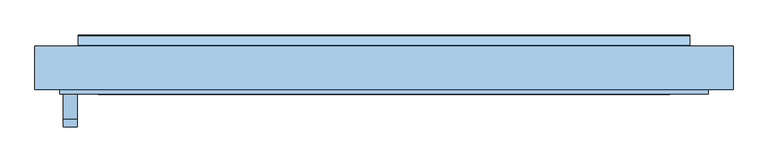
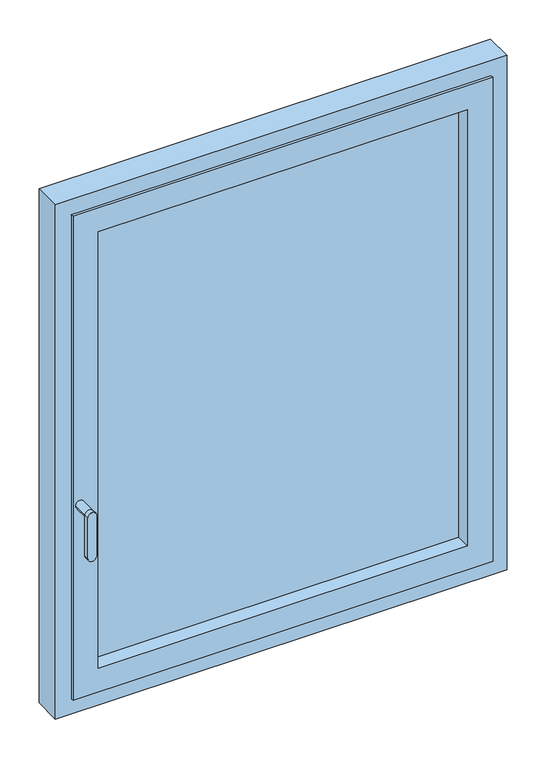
"""IFC4 building model written with IfcOpenShell, lengths in millimetres: window geometry, Jednokrilni prozor_FT-0201 HF+FT-0203 HF : Jednokrilni prozor_FT-0201 HF+FT-0203 HF-1230x1480mm."""

from ifc_helpers import new_model, si_unit, point, frame, frame_2d, origin, place, context, project, spatial, polyline, circle_curve, trimmed, segment, composite_curve, outline, extrude, faceted_brep, source, transform, mapped, element, save
from ifc_brep_helpers import plane_surface, cylinder_surface, advanced_brep


def window_342ed4de(model_context):
    return source(origin(), model_context, "Body", "SolidModel", [
        advanced_brep(
        [(-564.7, 0.0, 1410.7), (-540.7, 0.0, 1410.7), (-540.7, -43.5, 1410.7), (-564.7, -43.5, 1410.7), (-564.7, -58.0, 1410.7), (-564.7, -58.0, 1294.7), (-540.7, -58.0, 1294.7), (-540.7, -58.0, 1410.7), (-540.7, -43.5, 1294.7), (-564.7, -43.5, 1294.7)],
        [
            (0, 1, circle_curve(frame((-552.7, 0.0, 1410.7), z_axis=(0.0, 1.0, 0.0), x_axis=(1.0, 0.0, 0.0)), 12.0)),
            (1, 0, circle_curve(frame((-552.7, 0.0, 1410.7), z_axis=(0.0, 1.0, 0.0), x_axis=(1.0, 0.0, 0.0)), 12.0)),
            (1, 2),
            (2, 3, circle_curve(frame((-552.7, -43.5, 1410.7), z_axis=(0.0, 1.0, 0.0), x_axis=(1.0, 0.0, 0.0)), 12.0)),
            (3, 0),
            (3, 2, circle_curve(frame((-552.7, -43.5, 1410.7), z_axis=(0.0, 1.0, 0.0), x_axis=(1.0, 0.0, 0.0)), 12.0)),
            (4, 5),
            (5, 6, circle_curve(frame((-552.7, -58.0, 1294.7), z_axis=(0.0, -1.0, 0.0), x_axis=(1.0, 0.0, 0.0)), 12.0)),
            (6, 7),
            (7, 4, circle_curve(frame((-552.7, -58.0, 1410.7), z_axis=(0.0, -1.0, 0.0), x_axis=(1.0, 0.0, 0.0)), 12.0)),
            (2, 8),
            (8, 9, circle_curve(frame((-552.7, -43.5, 1294.7), z_axis=(0.0, 1.0, 0.0), x_axis=(1.0, 0.0, 0.0)), 12.0)),
            (9, 3),
            (4, 3),
            (9, 5),
            (8, 6),
            (2, 7),
        ],
        [
            plane_surface(frame((-540.7, 0.0, 1410.7), z_axis=(0.0, 1.0, 0.0), x_axis=(0.0, 0.0, -1.0))),
            cylinder_surface(frame((-552.7, 0.0, 1410.7), z_axis=(0.0, -1.0, 0.0), x_axis=(1.0, 0.0, 0.0)), 12.0),
            plane_surface(frame((-564.7, -58.0, 1410.7), z_axis=(0.0, -1.0, 0.0), x_axis=(0.0, 0.0, -1.0))),
            plane_surface(frame((-564.7, -43.5, 1410.7), z_axis=(0.0, 1.0, 0.0), x_axis=(0.0, 0.0, 1.0))),
            plane_surface(frame((-564.7, -58.0, 1410.7), z_axis=(-1.0, 0.0, 0.0), x_axis=(0.0, 1.0, 0.0))),
            cylinder_surface(frame((-552.7, -43.5, 1294.7), z_axis=(0.0, -1.0, 0.0), x_axis=(1.0, 0.0, 0.0)), 12.0),
            plane_surface(frame((-540.7, -58.0, 1294.7), z_axis=(1.0, 0.0, 0.0), x_axis=(0.0, 1.0, 0.0))),
            cylinder_surface(frame((-552.7, -43.5, 1410.7), z_axis=(0.0, -1.0, 0.0), x_axis=(1.0, 0.0, 0.0)), 12.0),
        ],
        [
            (0, [[1, 2]]),
            (1, [[-2, 3, 4, 5]]),
            (1, [[-1, -5, 6, -3]]),
            (2, [[7, 8, 9, 10]]),
            (3, [[11, 12, 13, -4]]),
            (4, [[-7, 14, -13, 15]]),
            (5, [[-8, -15, -12, 16]]),
            (6, [[-9, -16, -11, 17]]),
            (7, [[-10, -17, -6, -14]]),
        ],
    ),
        extrude(outline(polyline([(518.0001305, 41.6185338), (-518.0001305, 41.6185338), (-518.0001305, 69.6185338), (518.0001305, 69.6185338), (518.0001305, 41.6185338)])), frame((0.0, 0.0, 906.9998695), z_axis=(0.0, 0.0, 1.0), x_axis=(1.0, 0.0, 0.0)), (0.0, 0.0, 1.0), 1286.000261),
        faceted_brep([(571.5, 8.0000037, 2246.5), (571.5, 0.0, 2246.5), (571.5, 0.0, 853.5), (571.5, 8.0000037, 853.5), (-571.5, 0.0, 2246.5), (-571.5, 0.0, 853.5), (502.999872, 0.0, 922.000128), (-502.999872, 0.0, 922.000128), (-502.999872, 0.0, 2177.999872), (502.999872, 0.0, 2177.999872), (-571.5, 8.0000037, 853.5), (-571.5, 8.0000037, 2246.5), (553.8374799, 8.0000037, 2228.8374799), (-553.8374799, 8.0000037, 2228.8374799), (-553.8374799, 8.0000037, 871.1625201), (553.8374799, 8.0000037, 871.1625201), (554.5000951, 80.4965699, 2229.5000951), (554.5000951, 80.4965699, 870.4999049), (-554.5000951, 80.4965699, 870.4999049), (-554.5000951, 80.4965699, 2229.5000951), (538.5022896, 80.4965699, 2213.5022896), (-538.5022896, 80.4965699, 2213.5022896), (-538.5022896, 80.4965699, 886.4977104), (538.5022896, 80.4965699, 886.4977104), (538.5022896, 85.0, 2213.5022896), (538.5022896, 85.0, 886.4977104), (-538.5022896, 85.0, 886.4977104), (-538.5022896, 85.0, 2213.5022896), (530.05192, 85.0, 2205.05192), (-530.05192, 85.0, 2205.05192), (-530.05192, 85.0, 894.94808), (530.05192, 85.0, 894.94808), (526.0799884, 84.9128958, 898.9200116), (526.0799884, 84.9128958, 2201.0799884), (-526.0799884, 84.9128958, 898.9200116), (522.162591, 84.6124559, 902.837409), (522.162591, 84.6124559, 2197.162591), (-522.162591, 84.6124559, 902.837409), (519.6527826, 84.3851556, 905.3472174), (519.6527826, 84.3851556, 2194.6527826), (-519.6527826, 84.3851556, 905.3472174), (515.0927215, 83.6652065, 909.9072785), (515.0927215, 83.6652065, 2190.0927215), (-515.0927215, 83.6652065, 909.9072785), (510.772385, 82.6110634, 914.227615), (510.772385, 82.6110634, 2185.772385), (-510.772385, 82.6110634, 914.227615), (508.9191235, 81.9932101, 2183.9191235), (508.9191235, 81.9932101, 916.0808765), (-508.9191235, 81.9932101, 916.0808765), (507.5793408, 81.4515735, 2182.5793408), (507.5793408, 81.4515735, 917.4206592), (-507.5793408, 81.4515735, 917.4206592), (506.1201327, 80.7277945, 2181.1201327), (506.1201327, 80.7277945, 918.8798673), (-506.1201327, 80.7277945, 918.8798673), (504.9946194, 80.0124074, 2179.9946194), (504.9946194, 80.0124074, 920.0053806), (-504.9946194, 80.0124074, 920.0053806), (504.1282037, 79.2824712, 2179.1282037), (504.1282037, 79.2824712, 920.8717963), (-504.1282037, 79.2824712, 920.8717963), (503.1975707, 78.1677754, 2178.1975707), (503.1975707, 78.1677754, 921.8024293), (-503.1975707, 78.1677754, 921.8024293), (503.0046233, 77.0008291, 2178.0046233), (503.0046233, 77.0008291, 921.9953767), (-503.0046233, 77.0008291, 921.9953767), (503.0046233, 69.6185338, 2178.0046233), (503.0046233, 69.6185338, 921.9953767), (-503.0046233, 69.6185338, 921.9953767), (518.0001305, 69.6185338, 2193.0001305), (-518.0001305, 69.6185338, 2193.0001305), (-518.0001305, 69.6185338, 906.9998695), (518.0001305, 69.6185338, 906.9998695), (-503.0046233, 69.6185338, 2178.0046233), (518.0001305, 41.6185338, 2193.0001305), (518.0001305, 41.6185338, 906.9998695), (-518.0001305, 41.6185338, 906.9998695), (-518.0001305, 41.6185338, 2193.0001305), (502.999872, 41.6185338, 2177.999872), (-502.999872, 41.6185338, 2177.999872), (-502.999872, 41.6185338, 922.000128), (502.999872, 41.6185338, 922.000128), (-526.0799884, 84.9128958, 2201.0799884), (-522.162591, 84.6124559, 2197.162591), (-519.6527826, 84.3851556, 2194.6527826), (-515.0927215, 83.6652065, 2190.0927215), (-510.772385, 82.6110634, 2185.772385), (-508.9191235, 81.9932101, 2183.9191235), (-507.5793408, 81.4515735, 2182.5793408), (-506.1201327, 80.7277945, 2181.1201327), (-504.9946194, 80.0124074, 2179.9946194), (-504.1282037, 79.2824712, 2179.1282037), (-503.1975707, 78.1677754, 2178.1975707), (-503.0046233, 77.0008291, 2178.0046233)], [[[0, 1, 2, 3]], [[1, 4, 5, 2], [6, 7, 8, 9]], [[3, 2, 5, 10]], [[3, 10, 11, 0], [12, 13, 14, 15]], [[16, 12, 15, 17]], [[17, 15, 14, 18]], [[17, 18, 19, 16], [20, 21, 22, 23]], [[24, 20, 23, 25]], [[25, 23, 22, 26]], [[25, 26, 27, 24], [28, 29, 30, 31]], [[28, 31, 32, 33]], [[32, 31, 30, 34]], [[33, 32, 35, 36]], [[35, 32, 34, 37]], [[36, 35, 38, 39]], [[38, 35, 37, 40]], [[39, 38, 41, 42]], [[41, 38, 40, 43]], [[42, 41, 44, 45]], [[44, 41, 43, 46]], [[47, 45, 44, 48]], [[48, 44, 46, 49]], [[50, 47, 48, 51]], [[51, 48, 49, 52]], [[53, 50, 51, 54]], [[54, 51, 52, 55]], [[56, 53, 54, 57]], [[57, 54, 55, 58]], [[59, 56, 57, 60]], [[60, 57, 58, 61]], [[62, 59, 60, 63]], [[63, 60, 61, 64]], [[65, 62, 63, 66]], [[66, 63, 64, 67]], [[68, 65, 66, 69]], [[69, 66, 67, 70]], [[71, 72, 73, 74], [69, 70, 75, 68]], [[76, 71, 74, 77]], [[77, 74, 73, 78]], [[77, 78, 79, 76], [80, 81, 82, 83]], [[9, 80, 83, 6]], [[6, 83, 82, 7]], [[10, 5, 4, 11]], [[18, 14, 13, 19]], [[26, 22, 21, 27]], [[34, 30, 29, 84]], [[37, 34, 84, 85]], [[40, 37, 85, 86]], [[43, 40, 86, 87]], [[46, 43, 87, 88]], [[49, 46, 88, 89]], [[52, 49, 89, 90]], [[55, 52, 90, 91]], [[58, 55, 91, 92]], [[61, 58, 92, 93]], [[64, 61, 93, 94]], [[67, 64, 94, 95]], [[70, 67, 95, 75]], [[78, 73, 72, 79]], [[7, 82, 81, 8]], [[11, 4, 1, 0]], [[19, 13, 12, 16]], [[27, 21, 20, 24]], [[84, 29, 28, 33]], [[85, 84, 33, 36]], [[86, 85, 36, 39]], [[87, 86, 39, 42]], [[88, 87, 42, 45]], [[89, 88, 45, 47]], [[90, 89, 47, 50]], [[91, 90, 50, 53]], [[92, 91, 53, 56]], [[93, 92, 56, 59]], [[94, 93, 59, 62]], [[95, 94, 62, 65]], [[75, 95, 65, 68]], [[79, 72, 71, 76]], [[8, 81, 80, 9]]]),
        faceted_brep([(571.5, 8.0000037, 2246.5), (571.5, 0.0, 2246.5), (571.5, 0.0, 853.5), (571.5, 8.0000037, 853.5), (-571.5, 0.0, 2246.5), (-571.5, 0.0, 853.5), (502.999872, 0.0, 922.000128), (-502.999872, 0.0, 922.000128), (-502.999872, 0.0, 2177.999872), (502.999872, 0.0, 2177.999872), (-571.5, 8.0000037, 853.5), (-571.5, 8.0000037, 2246.5), (553.8374799, 8.0000037, 2228.8374799), (-553.8374799, 8.0000037, 2228.8374799), (-553.8374799, 8.0000037, 871.1625201), (553.8374799, 8.0000037, 871.1625201), (554.5000951, 80.4965699, 2229.5000951), (554.5000951, 80.4965699, 870.4999049), (-554.5000951, 80.4965699, 870.4999049), (-554.5000951, 80.4965699, 2229.5000951), (538.5022896, 80.4965699, 2213.5022896), (-538.5022896, 80.4965699, 2213.5022896), (-538.5022896, 80.4965699, 886.4977104), (538.5022896, 80.4965699, 886.4977104), (538.5022896, 85.0, 2213.5022896), (538.5022896, 85.0, 886.4977104), (-538.5022896, 85.0, 886.4977104), (-538.5022896, 85.0, 2213.5022896), (530.05192, 85.0, 2205.05192), (-530.05192, 85.0, 2205.05192), (-530.05192, 85.0, 894.94808), (530.05192, 85.0, 894.94808), (526.0799884, 84.9128958, 898.9200116), (526.0799884, 84.9128958, 2201.0799884), (-526.0799884, 84.9128958, 898.9200116), (522.162591, 84.6124559, 902.837409), (522.162591, 84.6124559, 2197.162591), (-522.162591, 84.6124559, 902.837409), (519.6527826, 84.3851556, 905.3472174), (519.6527826, 84.3851556, 2194.6527826), (-519.6527826, 84.3851556, 905.3472174), (515.0927215, 83.6652065, 909.9072785), (515.0927215, 83.6652065, 2190.0927215), (-515.0927215, 83.6652065, 909.9072785), (510.772385, 82.6110634, 914.227615), (510.772385, 82.6110634, 2185.772385), (-510.772385, 82.6110634, 914.227615), (508.9191235, 81.9932101, 2183.9191235), (508.9191235, 81.9932101, 916.0808765), (-508.9191235, 81.9932101, 916.0808765), (507.5793408, 81.4515735, 2182.5793408), (507.5793408, 81.4515735, 917.4206592), (-507.5793408, 81.4515735, 917.4206592), (506.1201327, 80.7277945, 2181.1201327), (506.1201327, 80.7277945, 918.8798673), (-506.1201327, 80.7277945, 918.8798673), (504.9946194, 80.0124074, 2179.9946194), (504.9946194, 80.0124074, 920.0053806), (-504.9946194, 80.0124074, 920.0053806), (504.1282037, 79.2824712, 2179.1282037), (504.1282037, 79.2824712, 920.8717963), (-504.1282037, 79.2824712, 920.8717963), (503.1975707, 78.1677754, 2178.1975707), (503.1975707, 78.1677754, 921.8024293), (-503.1975707, 78.1677754, 921.8024293), (503.0046233, 77.0008291, 2178.0046233), (503.0046233, 77.0008291, 921.9953767), (-503.0046233, 77.0008291, 921.9953767), (503.0046233, 69.6185338, 2178.0046233), (503.0046233, 69.6185338, 921.9953767), (-503.0046233, 69.6185338, 921.9953767), (518.0001305, 69.6185338, 2193.0001305), (-518.0001305, 69.6185338, 2193.0001305), (-518.0001305, 69.6185338, 906.9998695), (518.0001305, 69.6185338, 906.9998695), (-503.0046233, 69.6185338, 2178.0046233), (518.0001305, 41.6185338, 2193.0001305), (518.0001305, 41.6185338, 906.9998695), (-518.0001305, 41.6185338, 906.9998695), (-518.0001305, 41.6185338, 2193.0001305), (502.999872, 41.6185338, 2177.999872), (-502.999872, 41.6185338, 2177.999872), (-502.999872, 41.6185338, 922.000128), (502.999872, 41.6185338, 922.000128), (-526.0799884, 84.9128958, 2201.0799884), (-522.162591, 84.6124559, 2197.162591), (-519.6527826, 84.3851556, 2194.6527826), (-515.0927215, 83.6652065, 2190.0927215), (-510.772385, 82.6110634, 2185.772385), (-508.9191235, 81.9932101, 2183.9191235), (-507.5793408, 81.4515735, 2182.5793408), (-506.1201327, 80.7277945, 2181.1201327), (-504.9946194, 80.0124074, 2179.9946194), (-504.1282037, 79.2824712, 2179.1282037), (-503.1975707, 78.1677754, 2178.1975707), (-503.0046233, 77.0008291, 2178.0046233)], [[[0, 1, 2, 3]], [[1, 4, 5, 2], [6, 7, 8, 9]], [[3, 2, 5, 10]], [[3, 10, 11, 0], [12, 13, 14, 15]], [[16, 12, 15, 17]], [[17, 15, 14, 18]], [[17, 18, 19, 16], [20, 21, 22, 23]], [[24, 20, 23, 25]], [[25, 23, 22, 26]], [[25, 26, 27, 24], [28, 29, 30, 31]], [[28, 31, 32, 33]], [[32, 31, 30, 34]], [[33, 32, 35, 36]], [[35, 32, 34, 37]], [[36, 35, 38, 39]], [[38, 35, 37, 40]], [[39, 38, 41, 42]], [[41, 38, 40, 43]], [[42, 41, 44, 45]], [[44, 41, 43, 46]], [[47, 45, 44, 48]], [[48, 44, 46, 49]], [[50, 47, 48, 51]], [[51, 48, 49, 52]], [[53, 50, 51, 54]], [[54, 51, 52, 55]], [[56, 53, 54, 57]], [[57, 54, 55, 58]], [[59, 56, 57, 60]], [[60, 57, 58, 61]], [[62, 59, 60, 63]], [[63, 60, 61, 64]], [[65, 62, 63, 66]], [[66, 63, 64, 67]], [[68, 65, 66, 69]], [[69, 66, 67, 70]], [[71, 72, 73, 74], [69, 70, 75, 68]], [[76, 71, 74, 77]], [[77, 74, 73, 78]], [[77, 78, 79, 76], [80, 81, 82, 83]], [[9, 80, 83, 6]], [[6, 83, 82, 7]], [[10, 5, 4, 11]], [[18, 14, 13, 19]], [[26, 22, 21, 27]], [[34, 30, 29, 84]], [[37, 34, 84, 85]], [[40, 37, 85, 86]], [[43, 40, 86, 87]], [[46, 43, 87, 88]], [[49, 46, 88, 89]], [[52, 49, 89, 90]], [[55, 52, 90, 91]], [[58, 55, 91, 92]], [[61, 58, 92, 93]], [[64, 61, 93, 94]], [[67, 64, 94, 95]], [[70, 67, 95, 75]], [[78, 73, 72, 79]], [[7, 82, 81, 8]], [[11, 4, 1, 0]], [[19, 13, 12, 16]], [[27, 21, 20, 24]], [[84, 29, 28, 33]], [[85, 84, 33, 36]], [[86, 85, 36, 39]], [[87, 86, 39, 42]], [[88, 87, 42, 45]], [[89, 88, 45, 47]], [[90, 89, 47, 50]], [[91, 90, 50, 53]], [[92, 91, 53, 56]], [[93, 92, 56, 59]], [[94, 93, 59, 62]], [[95, 94, 62, 65]], [[75, 95, 65, 68]], [[79, 72, 71, 76]], [[8, 81, 80, 9]]]),
        extrude(outline(composite_curve([segment(trimmed(circle_curve(frame_2d((101.3128907, 888.4005569)), 1.9999991), [point((103.3128898, 888.4005569))], [point((102.3128961, 890.1326036))], True, "CARTESIAN"), True, "CONTINUOUS"), segment(polyline([(102.3128961, 890.1326036), (90.3129022, 897.0608573), (86.3128892, 890.1326854), (86.3224044, 887.4706156)]), True, "CONTINUOUS"), segment(trimmed(circle_curve(frame_2d((85.3513162, 887.4671446)), 0.9710944), [point((86.3224044, 887.4706156))], [point((84.9128958, 886.6006505))], False, "CARTESIAN"), True, "CONTINUOUS"), segment(polyline([(84.9128958, 886.6006505), (84.9128958, 901.2177104), (85.9129268, 901.2177104), (102.9128658, 891.4027684)]), True, "CONTINUOUS"), segment(trimmed(circle_curve(frame_2d((100.9128589, 887.9386628)), 4.0000069), [point((102.9128658, 891.4027684))], [point((104.847355, 887.2176944))], False, "CARTESIAN"), True, "CONTINUOUS"), segment(polyline([(104.847355, 887.2176944), (103.3128898, 887.2176944), (103.3128898, 888.4005569)]), True, "CONTINUOUS")], self_intersect=False)), frame((-538.5022896, 0.0, 0.0), z_axis=(1.0, 0.0, 0.0), x_axis=(0.0, 1.0, 0.0)), (0.0, 0.0, 1.0), 1077.0045792),
        faceted_brep([(565.499939, 8.0000013, 2240.499939), (565.499939, 80.4965549, 2240.499939), (565.499939, 80.4965549, 859.500061), (565.499939, 8.0000013, 859.500061), (-565.499939, 80.4965549, 2240.499939), (-565.499939, 80.4965549, 859.500061), (543.5006195, 80.4965549, 881.4993805), (-543.5006195, 80.4965549, 881.4993805), (-543.5006195, 80.4965549, 2218.5006195), (543.5006195, 80.4965549, 2218.5006195), (-565.499939, 8.0000013, 859.500061), (615.0, 8.0000013, 2290.0), (-615.0, 8.0000013, 2290.0), (-615.0, 8.0000013, 810.0), (615.0, 8.0000013, 810.0), (-565.499939, 8.0000013, 2240.499939), (615.0, 85.0, 2290.0), (615.0, 85.0, 810.0), (-615.0, 85.0, 810.0), (-615.0, 85.0, 2290.0), (543.5006195, 85.0, 2218.5006195), (-543.5006195, 85.0, 2218.5006195), (-543.5006195, 85.0, 881.4993805), (543.5006195, 85.0, 881.4993805)], [[[0, 1, 2, 3]], [[1, 4, 5, 2], [6, 7, 8, 9]], [[3, 2, 5, 10]], [[11, 12, 13, 14], [3, 10, 15, 0]], [[16, 11, 14, 17]], [[17, 14, 13, 18]], [[17, 18, 19, 16], [20, 21, 22, 23]], [[9, 20, 23, 6]], [[6, 23, 22, 7]], [[10, 5, 4, 15]], [[18, 13, 12, 19]], [[7, 22, 21, 8]], [[15, 4, 1, 0]], [[19, 12, 11, 16]], [[8, 21, 20, 9]]]),
    ])


if __name__ == "__main__":
    model = new_model("IFC4")
    model_context = context("Model", 3, world=origin())
    ifc_project = project(units=[si_unit("LENGTHUNIT", "METRE", prefix="MILLI")], contexts=[model_context])
    site = spatial("IfcSite", under=ifc_project)
    building = spatial("IfcBuilding", under=site)
    placement = place(None, origin())
    window_shape = window_342ed4de(model_context)
    element("IfcWindow", 1, ObjectType="Jednokrilni prozor_FT-0201 HF+FT-0203 HF : Jednokrilni prozor_FT-0201 HF+FT-0203 HF-1230x1480mm", at=placement, inside=building, context=model_context, shape_type="MappedRepresentation", body=[
        mapped(window_shape, transform((0.0, 0.0, 0.0), x_axis=(1.0, 0.0, 0.0), y_axis=(0.0, 1.0, 0.0), z_axis=(0.0, 0.0, 1.0))),
    ])
    save(model, "model.ifc")
